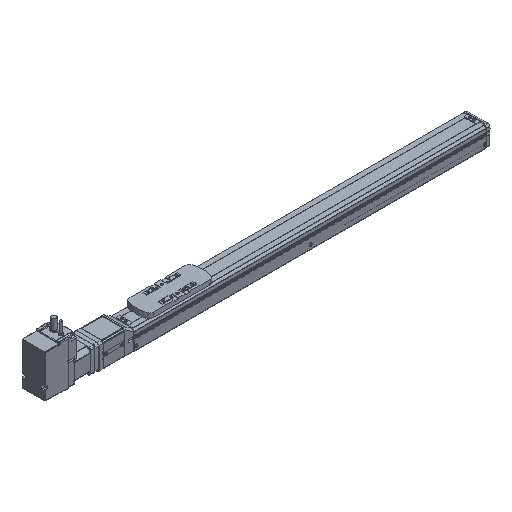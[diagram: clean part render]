
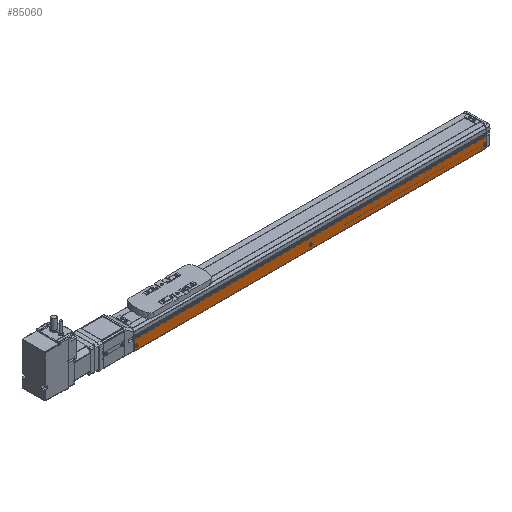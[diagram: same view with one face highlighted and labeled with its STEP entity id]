
A CAD part, isometric view. The second image highlights one B-rep face of the part: STEP entity #85060.
In plain terms, the highlighted planar face has unit normal (0, -1, 0) as drawn and (0, 0, 1) by its records, which use the part's own axes.
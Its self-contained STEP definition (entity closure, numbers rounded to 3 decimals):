
#68324 = PLANE('',#68325);
#68325 = AXIS2_PLACEMENT_3D('',#68326,#68327,#68328);
#68326 = CARTESIAN_POINT('',(-626.5,1.25,21.3));
#68327 = DIRECTION('',(1.,0.,0.));
#68328 = DIRECTION('',(0.,0.,-1.));
#68723 = PLANE('',#68724);
#68724 = AXIS2_PLACEMENT_3D('',#68725,#68726,#68727);
#68725 = CARTESIAN_POINT('',(-9.5,1.25,21.3));
#68726 = DIRECTION('',(1.,0.,0.));
#68727 = DIRECTION('',(0.,0.,-1.));
#84949 = CYLINDRICAL_SURFACE('',#84950,1.);
#84950 = AXIS2_PLACEMENT_3D('',#84951,#84952,#84953);
#84951 = CARTESIAN_POINT('',(-626.5,-20.734,20.5));
#84952 = DIRECTION('',(1.,0.,0.));
#84953 = DIRECTION('',(0.,0.,-1.));
#84987 = VERTEX_POINT('',#84988);
#84988 = CARTESIAN_POINT('',(-9.5,-20.734,21.5));
#85010 = EDGE_CURVE('',#85011,#84987,#85013,.T.);
#85011 = VERTEX_POINT('',#85012);
#85012 = CARTESIAN_POINT('',(-626.5,-20.734,21.5));
#85013 = SURFACE_CURVE('',#85014,(#85018,#85025),.PCURVE_S1.);
#85014 = LINE('',#85015,#85016);
#85015 = CARTESIAN_POINT('',(-626.5,-20.734,21.5));
#85016 = VECTOR('',#85017,1.);
#85017 = DIRECTION('',(1.,0.,0.));
#85018 = PCURVE('',#84949,#85019);
#85019 = DEFINITIONAL_REPRESENTATION('',(#85020),#85024);
#85020 = LINE('',#85021,#85022);
#85021 = CARTESIAN_POINT('',(3.142,0.));
#85022 = VECTOR('',#85023,1.);
#85023 = DIRECTION('',(0.,1.));
#85024 = ( GEOMETRIC_REPRESENTATION_CONTEXT(2) 
PARAMETRIC_REPRESENTATION_CONTEXT() REPRESENTATION_CONTEXT('2D SPACE',''
  ) );
#85025 = PCURVE('',#85026,#85031);
#85026 = PLANE('',#85027);
#85027 = AXIS2_PLACEMENT_3D('',#85028,#85029,#85030);
#85028 = CARTESIAN_POINT('',(-626.5,-2.65,21.5));
#85029 = DIRECTION('',(0.,0.,1.));
#85030 = DIRECTION('',(1.,0.,-0.));
#85031 = DEFINITIONAL_REPRESENTATION('',(#85032),#85036);
#85032 = LINE('',#85033,#85034);
#85033 = CARTESIAN_POINT('',(0.,-18.084));
#85034 = VECTOR('',#85035,1.);
#85035 = DIRECTION('',(1.,0.));
#85036 = ( GEOMETRIC_REPRESENTATION_CONTEXT(2) 
PARAMETRIC_REPRESENTATION_CONTEXT() REPRESENTATION_CONTEXT('2D SPACE',''
  ) );
#85060 = ADVANCED_FACE('',(#85061,#85096,#85127,#85158),#85026,.T.);
#85061 = FACE_BOUND('',#85062,.T.);
#85062 = EDGE_LOOP('',(#85063));
#85063 = ORIENTED_EDGE('',*,*,#85064,.T.);
#85064 = EDGE_CURVE('',#85065,#85065,#85067,.T.);
#85065 = VERTEX_POINT('',#85066);
#85066 = CARTESIAN_POINT('',(-320.25,-13.5,21.5));
#85067 = SURFACE_CURVE('',#85068,(#85073,#85084),.PCURVE_S1.);
#85068 = CIRCLE('',#85069,2.25);
#85069 = AXIS2_PLACEMENT_3D('',#85070,#85071,#85072);
#85070 = CARTESIAN_POINT('',(-318.,-13.5,21.5));
#85071 = DIRECTION('',(0.,0.,-1.));
#85072 = DIRECTION('',(-1.,0.,0.));
#85073 = PCURVE('',#85026,#85074);
#85074 = DEFINITIONAL_REPRESENTATION('',(#85075),#85083);
#85075 = ( BOUNDED_CURVE() B_SPLINE_CURVE(2,(#85076,#85077,#85078,#85079
    ,#85080,#85081,#85082),.UNSPECIFIED.,.T.,.F.) 
B_SPLINE_CURVE_WITH_KNOTS((1,2,2,2,2,1),(-2.094,0.,
    2.094,4.189,6.283,8.378),
.UNSPECIFIED.) CURVE() GEOMETRIC_REPRESENTATION_ITEM() 
RATIONAL_B_SPLINE_CURVE((1.,0.5,1.,0.5,1.,0.5,1.)) REPRESENTATION_ITEM(
  '') );
#85076 = CARTESIAN_POINT('',(306.25,-10.85));
#85077 = CARTESIAN_POINT('',(306.25,-6.953));
#85078 = CARTESIAN_POINT('',(309.625,-8.901));
#85079 = CARTESIAN_POINT('',(313.,-10.85));
#85080 = CARTESIAN_POINT('',(309.625,-12.799));
#85081 = CARTESIAN_POINT('',(306.25,-14.747));
#85082 = CARTESIAN_POINT('',(306.25,-10.85));
#85083 = ( GEOMETRIC_REPRESENTATION_CONTEXT(2) 
PARAMETRIC_REPRESENTATION_CONTEXT() REPRESENTATION_CONTEXT('2D SPACE',''
  ) );
#85084 = PCURVE('',#85085,#85090);
#85085 = CONICAL_SURFACE('',#85086,2.181,0.087);
#85086 = AXIS2_PLACEMENT_3D('',#85087,#85088,#85089);
#85087 = CARTESIAN_POINT('',(-318.,-13.5,22.289));
#85088 = DIRECTION('',(0.,0.,-1.));
#85089 = DIRECTION('',(-1.,0.,0.));
#85090 = DEFINITIONAL_REPRESENTATION('',(#85091),#85095);
#85091 = LINE('',#85092,#85093);
#85092 = CARTESIAN_POINT('',(0.,0.789));
#85093 = VECTOR('',#85094,1.);
#85094 = DIRECTION('',(1.,0.));
#85095 = ( GEOMETRIC_REPRESENTATION_CONTEXT(2) 
PARAMETRIC_REPRESENTATION_CONTEXT() REPRESENTATION_CONTEXT('2D SPACE',''
  ) );
#85096 = FACE_BOUND('',#85097,.T.);
#85097 = EDGE_LOOP('',(#85098));
#85098 = ORIENTED_EDGE('',*,*,#85099,.F.);
#85099 = EDGE_CURVE('',#85100,#85100,#85102,.T.);
#85100 = VERTEX_POINT('',#85101);
#85101 = CARTESIAN_POINT('',(-620.71,-14.5,21.5));
#85102 = SURFACE_CURVE('',#85103,(#85108,#85115),.PCURVE_S1.);
#85103 = CIRCLE('',#85104,2.29);
#85104 = AXIS2_PLACEMENT_3D('',#85105,#85106,#85107);
#85105 = CARTESIAN_POINT('',(-623.,-14.5,21.5));
#85106 = DIRECTION('',(0.,0.,1.));
#85107 = DIRECTION('',(1.,0.,-0.));
#85108 = PCURVE('',#85026,#85109);
#85109 = DEFINITIONAL_REPRESENTATION('',(#85110),#85114);
#85110 = CIRCLE('',#85111,2.29);
#85111 = AXIS2_PLACEMENT_2D('',#85112,#85113);
#85112 = CARTESIAN_POINT('',(3.5,-11.85));
#85113 = DIRECTION('',(1.,0.));
#85114 = ( GEOMETRIC_REPRESENTATION_CONTEXT(2) 
PARAMETRIC_REPRESENTATION_CONTEXT() REPRESENTATION_CONTEXT('2D SPACE',''
  ) );
#85115 = PCURVE('',#85116,#85121);
#85116 = CONICAL_SURFACE('',#85117,2.29,0.087);
#85117 = AXIS2_PLACEMENT_3D('',#85118,#85119,#85120);
#85118 = CARTESIAN_POINT('',(-623.,-14.5,21.5));
#85119 = DIRECTION('',(0.,0.,-1.));
#85120 = DIRECTION('',(-1.,0.,0.));
#85121 = DEFINITIONAL_REPRESENTATION('',(#85122),#85126);
#85122 = LINE('',#85123,#85124);
#85123 = CARTESIAN_POINT('',(9.425,0.));
#85124 = VECTOR('',#85125,1.);
#85125 = DIRECTION('',(-1.,0.));
#85126 = ( GEOMETRIC_REPRESENTATION_CONTEXT(2) 
PARAMETRIC_REPRESENTATION_CONTEXT() REPRESENTATION_CONTEXT('2D SPACE',''
  ) );
#85127 = FACE_BOUND('',#85128,.T.);
#85128 = EDGE_LOOP('',(#85129));
#85129 = ORIENTED_EDGE('',*,*,#85130,.F.);
#85130 = EDGE_CURVE('',#85131,#85131,#85133,.T.);
#85131 = VERTEX_POINT('',#85132);
#85132 = CARTESIAN_POINT('',(-10.71,-14.5,21.5));
#85133 = SURFACE_CURVE('',#85134,(#85139,#85146),.PCURVE_S1.);
#85134 = CIRCLE('',#85135,2.29);
#85135 = AXIS2_PLACEMENT_3D('',#85136,#85137,#85138);
#85136 = CARTESIAN_POINT('',(-13.,-14.5,21.5));
#85137 = DIRECTION('',(0.,0.,1.));
#85138 = DIRECTION('',(1.,0.,-0.));
#85139 = PCURVE('',#85026,#85140);
#85140 = DEFINITIONAL_REPRESENTATION('',(#85141),#85145);
#85141 = CIRCLE('',#85142,2.29);
#85142 = AXIS2_PLACEMENT_2D('',#85143,#85144);
#85143 = CARTESIAN_POINT('',(613.5,-11.85));
#85144 = DIRECTION('',(1.,0.));
#85145 = ( GEOMETRIC_REPRESENTATION_CONTEXT(2) 
PARAMETRIC_REPRESENTATION_CONTEXT() REPRESENTATION_CONTEXT('2D SPACE',''
  ) );
#85146 = PCURVE('',#85147,#85152);
#85147 = CONICAL_SURFACE('',#85148,2.29,0.087);
#85148 = AXIS2_PLACEMENT_3D('',#85149,#85150,#85151);
#85149 = CARTESIAN_POINT('',(-13.,-14.5,21.5));
#85150 = DIRECTION('',(0.,0.,-1.));
#85151 = DIRECTION('',(-1.,0.,0.));
#85152 = DEFINITIONAL_REPRESENTATION('',(#85153),#85157);
#85153 = LINE('',#85154,#85155);
#85154 = CARTESIAN_POINT('',(9.425,0.));
#85155 = VECTOR('',#85156,1.);
#85156 = DIRECTION('',(-1.,0.));
#85157 = ( GEOMETRIC_REPRESENTATION_CONTEXT(2) 
PARAMETRIC_REPRESENTATION_CONTEXT() REPRESENTATION_CONTEXT('2D SPACE',''
  ) );
#85158 = FACE_BOUND('',#85159,.T.);
#85159 = EDGE_LOOP('',(#85160,#85183,#85211,#85232));
#85160 = ORIENTED_EDGE('',*,*,#85161,.F.);
#85161 = EDGE_CURVE('',#85162,#84987,#85164,.T.);
#85162 = VERTEX_POINT('',#85163);
#85163 = CARTESIAN_POINT('',(-9.5,-2.65,21.5));
#85164 = SURFACE_CURVE('',#85165,(#85169,#85176),.PCURVE_S1.);
#85165 = LINE('',#85166,#85167);
#85166 = CARTESIAN_POINT('',(-9.5,-2.65,21.5));
#85167 = VECTOR('',#85168,1.);
#85168 = DIRECTION('',(0.,-1.,0.));
#85169 = PCURVE('',#85026,#85170);
#85170 = DEFINITIONAL_REPRESENTATION('',(#85171),#85175);
#85171 = LINE('',#85172,#85173);
#85172 = CARTESIAN_POINT('',(617.,0.));
#85173 = VECTOR('',#85174,1.);
#85174 = DIRECTION('',(0.,-1.));
#85175 = ( GEOMETRIC_REPRESENTATION_CONTEXT(2) 
PARAMETRIC_REPRESENTATION_CONTEXT() REPRESENTATION_CONTEXT('2D SPACE',''
  ) );
#85176 = PCURVE('',#68723,#85177);
#85177 = DEFINITIONAL_REPRESENTATION('',(#85178),#85182);
#85178 = LINE('',#85179,#85180);
#85179 = CARTESIAN_POINT('',(-0.2,-3.9));
#85180 = VECTOR('',#85181,1.);
#85181 = DIRECTION('',(0.,-1.));
#85182 = ( GEOMETRIC_REPRESENTATION_CONTEXT(2) 
PARAMETRIC_REPRESENTATION_CONTEXT() REPRESENTATION_CONTEXT('2D SPACE',''
  ) );
#85183 = ORIENTED_EDGE('',*,*,#85184,.F.);
#85184 = EDGE_CURVE('',#85185,#85162,#85187,.T.);
#85185 = VERTEX_POINT('',#85186);
#85186 = CARTESIAN_POINT('',(-626.5,-2.65,21.5));
#85187 = SURFACE_CURVE('',#85188,(#85192,#85199),.PCURVE_S1.);
#85188 = LINE('',#85189,#85190);
#85189 = CARTESIAN_POINT('',(-626.5,-2.65,21.5));
#85190 = VECTOR('',#85191,1.);
#85191 = DIRECTION('',(1.,0.,0.));
#85192 = PCURVE('',#85026,#85193);
#85193 = DEFINITIONAL_REPRESENTATION('',(#85194),#85198);
#85194 = LINE('',#85195,#85196);
#85195 = CARTESIAN_POINT('',(0.,0.));
#85196 = VECTOR('',#85197,1.);
#85197 = DIRECTION('',(1.,0.));
#85198 = ( GEOMETRIC_REPRESENTATION_CONTEXT(2) 
PARAMETRIC_REPRESENTATION_CONTEXT() REPRESENTATION_CONTEXT('2D SPACE',''
  ) );
#85199 = PCURVE('',#85200,#85205);
#85200 = CYLINDRICAL_SURFACE('',#85201,0.2);
#85201 = AXIS2_PLACEMENT_3D('',#85202,#85203,#85204);
#85202 = CARTESIAN_POINT('',(-626.5,-2.65,21.3));
#85203 = DIRECTION('',(1.,0.,0.));
#85204 = DIRECTION('',(0.,0.,-1.));
#85205 = DEFINITIONAL_REPRESENTATION('',(#85206),#85210);
#85206 = LINE('',#85207,#85208);
#85207 = CARTESIAN_POINT('',(3.142,0.));
#85208 = VECTOR('',#85209,1.);
#85209 = DIRECTION('',(0.,1.));
#85210 = ( GEOMETRIC_REPRESENTATION_CONTEXT(2) 
PARAMETRIC_REPRESENTATION_CONTEXT() REPRESENTATION_CONTEXT('2D SPACE',''
  ) );
#85211 = ORIENTED_EDGE('',*,*,#85212,.T.);
#85212 = EDGE_CURVE('',#85185,#85011,#85213,.T.);
#85213 = SURFACE_CURVE('',#85214,(#85218,#85225),.PCURVE_S1.);
#85214 = LINE('',#85215,#85216);
#85215 = CARTESIAN_POINT('',(-626.5,-2.65,21.5));
#85216 = VECTOR('',#85217,1.);
#85217 = DIRECTION('',(0.,-1.,0.));
#85218 = PCURVE('',#85026,#85219);
#85219 = DEFINITIONAL_REPRESENTATION('',(#85220),#85224);
#85220 = LINE('',#85221,#85222);
#85221 = CARTESIAN_POINT('',(0.,0.));
#85222 = VECTOR('',#85223,1.);
#85223 = DIRECTION('',(0.,-1.));
#85224 = ( GEOMETRIC_REPRESENTATION_CONTEXT(2) 
PARAMETRIC_REPRESENTATION_CONTEXT() REPRESENTATION_CONTEXT('2D SPACE',''
  ) );
#85225 = PCURVE('',#68324,#85226);
#85226 = DEFINITIONAL_REPRESENTATION('',(#85227),#85231);
#85227 = LINE('',#85228,#85229);
#85228 = CARTESIAN_POINT('',(-0.2,-3.9));
#85229 = VECTOR('',#85230,1.);
#85230 = DIRECTION('',(0.,-1.));
#85231 = ( GEOMETRIC_REPRESENTATION_CONTEXT(2) 
PARAMETRIC_REPRESENTATION_CONTEXT() REPRESENTATION_CONTEXT('2D SPACE',''
  ) );
#85232 = ORIENTED_EDGE('',*,*,#85010,.T.);
